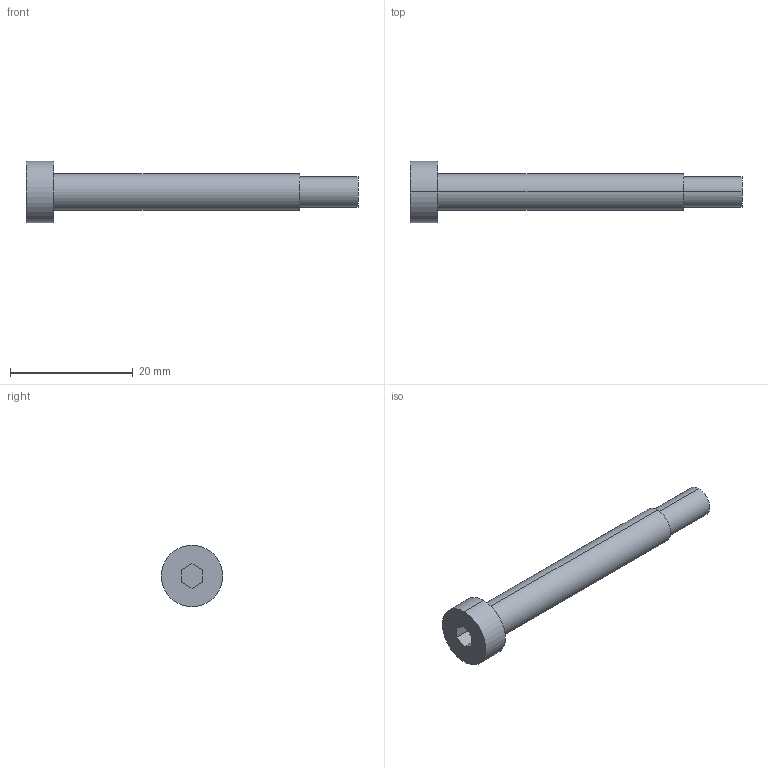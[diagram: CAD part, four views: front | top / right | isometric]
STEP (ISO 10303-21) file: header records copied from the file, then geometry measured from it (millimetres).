
FILE_DESCRIPTION (( 'STEP AP214' ), '1' );
FILE_NAME ('TPM-5x40.STEP', '2020-07-06T13:16:55', ( '' ), ( '' ), 'SwSTEP 2.0', 'SolidWorks 2018', '' );
FILE_SCHEMA (( 'AUTOMOTIVE_DESIGN' ));
Length unit declared in the file: millimetre
Products named in the file (1): TPM-5x40
Bounding box: 54 x 10 x 10 mm (x, y, z)
Volume: 1639.8 mm3; surface area: 1237.7 mm2
Topology: 1 solids, 1 shells, 17 faces, 36 edges, 24 vertices
Faces by surface type: plane 11, cylinder 6
Entity records: 496 total; most frequent: DIRECTION 84, CARTESIAN_POINT 78, ORIENTED_EDGE 72, EDGE_CURVE 36, AXIS2_PLACEMENT_3D 30, VERTEX_POINT 24, LINE 24, VECTOR 24
